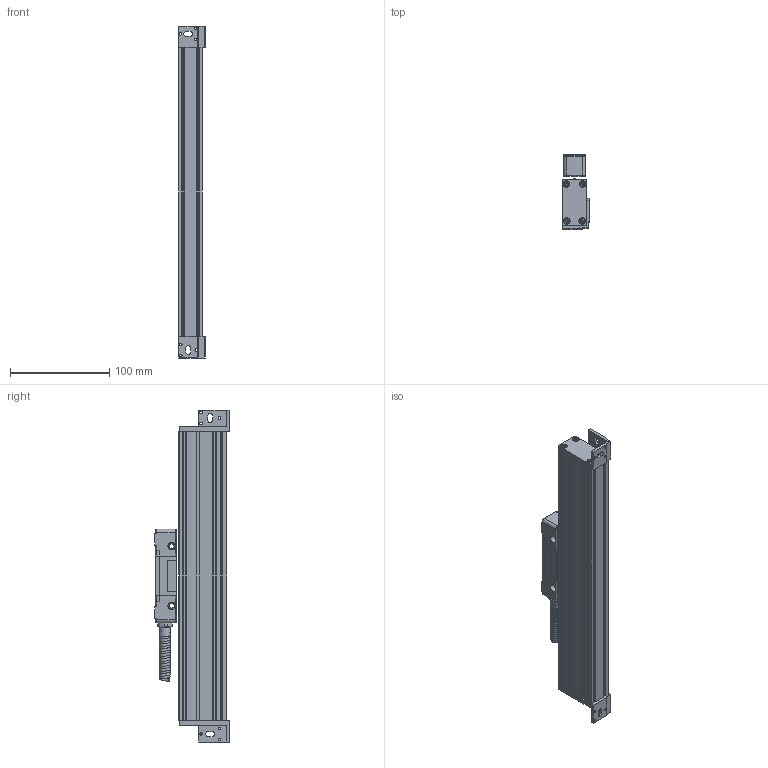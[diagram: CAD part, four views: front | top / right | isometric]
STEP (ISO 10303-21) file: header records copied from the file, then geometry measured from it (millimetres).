
FILE_DESCRIPTION (( 'STEP AP214' ), '1' );
FILE_NAME ('MLC310x0170.STEP', '2021-05-08T11:46:33', ( '' ), ( '' ), 'SwSTEP 2.0', 'SolidWorks 2014', '' );
FILE_SCHEMA (( 'AUTOMOTIVE_DESIGN' ));
Length unit declared in the file: millimetre
Products named in the file (1): MLC310x0170
Bounding box: 27 x 75.15 x 334 mm (x, y, z)
Surface area: 72704.7 mm2 (no closed solid volume)
Topology: 0 solids, 21 shells, 458 faces, 1470 edges, 1020 vertices
Faces by surface type: plane 180, cylinder 149, cone 83, bspline 36, torus 10
Entity records: 31845 total; most frequent: CARTESIAN_POINT 14274, DIRECTION 2540, ORIENTED_EDGE 2372, EDGE_CURVE 1462, VERTEX_POINT 1020, AXIS2_PLACEMENT_3D 877, VECTOR 786, LINE 786
